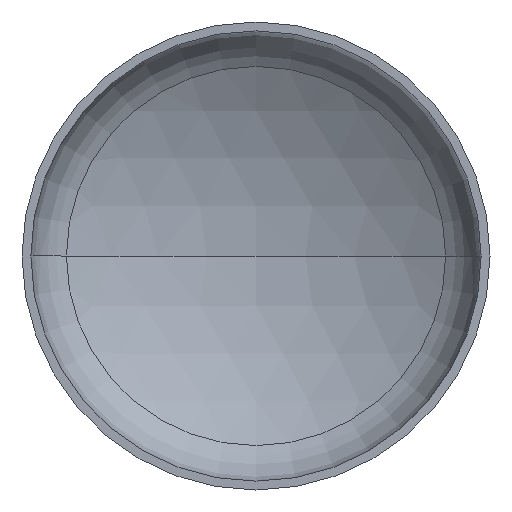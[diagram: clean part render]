
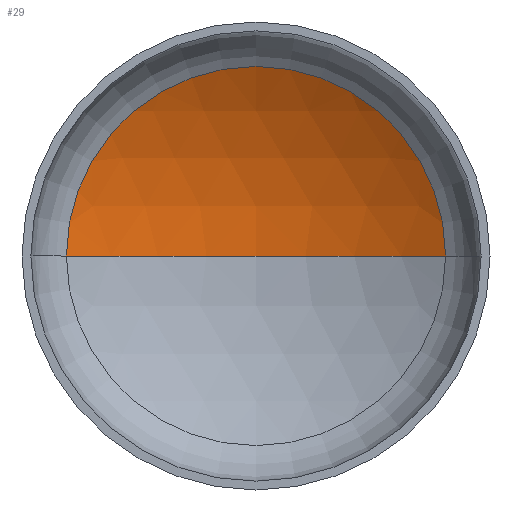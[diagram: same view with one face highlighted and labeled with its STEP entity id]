
A CAD part, front view. The second image highlights one B-rep face of the part: STEP entity #29.
In plain terms, the highlighted spherical face has radius 3040 mm.
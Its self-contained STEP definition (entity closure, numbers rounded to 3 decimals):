
#8 = AXIS2_PLACEMENT_3D ( 'NONE', #305, #120, #322 ) ;
#11 = CARTESIAN_POINT ( 'NONE',  ( 1539.193, 624.474, 0. ) ) ;
#16 = VERTEX_POINT ( 'NONE', #35 ) ;
#29 = ADVANCED_FACE ( 'NONE', ( #238 ), #395, .F. ) ;
#35 = CARTESIAN_POINT ( 'NONE',  ( 0., 1042.932, 0. ) ) ;
#38 = AXIS2_PLACEMENT_3D ( 'NONE', #403, #266, #55 ) ;
#40 = AXIS2_PLACEMENT_3D ( 'NONE', #300, #93, #177 ) ;
#55 = DIRECTION ( 'NONE',  ( -1., 0., 0. ) ) ;
#58 = AXIS2_PLACEMENT_3D ( 'NONE', #274, #287, #282 ) ;
#71 = ORIENTED_EDGE ( 'NONE', *, *, #143, .T. ) ;
#93 = DIRECTION ( 'NONE',  ( 0., -1., 0. ) ) ;
#112 = VERTEX_POINT ( 'NONE', #11 ) ;
#114 = VERTEX_POINT ( 'NONE', #304 ) ;
#115 = EDGE_CURVE ( 'NONE', #112, #114, #169, .T. ) ;
#120 = DIRECTION ( 'NONE',  ( 0., 0., 1. ) ) ;
#131 = ORIENTED_EDGE ( 'NONE', *, *, #115, .T. ) ;
#136 = ORIENTED_EDGE ( 'NONE', *, *, #355, .F. ) ;
#143 = EDGE_CURVE ( 'NONE', #16, #112, #363, .T. ) ;
#165 = EDGE_LOOP ( 'NONE', ( #136, #71, #131 ) ) ;
#169 = CIRCLE ( 'NONE', #40, 1539.193 ) ;
#177 = DIRECTION ( 'NONE',  ( 1., 0., 0. ) ) ;
#212 = CIRCLE ( 'NONE', #8, 3040. ) ;
#238 = FACE_OUTER_BOUND ( 'NONE', #165, .T. ) ;
#266 = DIRECTION ( 'NONE',  ( 0., 0., -1. ) ) ;
#274 = CARTESIAN_POINT ( 'NONE',  ( 0., -1997.068, 0. ) ) ;
#282 = DIRECTION ( 'NONE',  ( -1., 0., 0. ) ) ;
#287 = DIRECTION ( 'NONE',  ( 0., 0., -1. ) ) ;
#300 = CARTESIAN_POINT ( 'NONE',  ( 0., 624.474, 0. ) ) ;
#304 = CARTESIAN_POINT ( 'NONE',  ( -1539.193, 624.474, 0. ) ) ;
#305 = CARTESIAN_POINT ( 'NONE',  ( 0., -1997.068, 0. ) ) ;
#322 = DIRECTION ( 'NONE',  ( 1., 0., 0. ) ) ;
#355 = EDGE_CURVE ( 'NONE', #16, #114, #212, .T. ) ;
#363 = CIRCLE ( 'NONE', #38, 3040. ) ;
#395 = SPHERICAL_SURFACE ( 'NONE', #58, 3040. ) ;
#403 = CARTESIAN_POINT ( 'NONE',  ( 0., -1997.068, 0. ) ) ;
